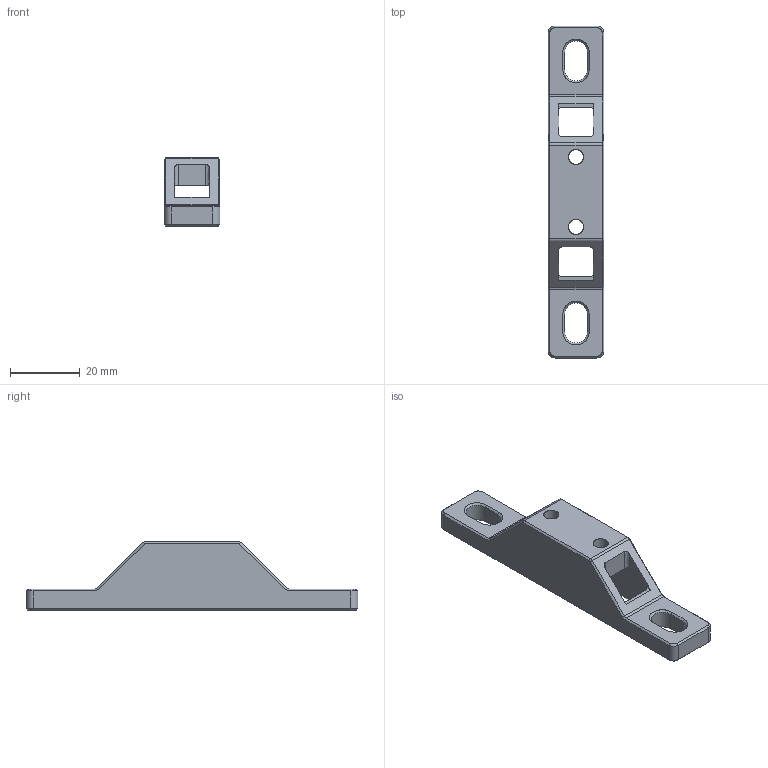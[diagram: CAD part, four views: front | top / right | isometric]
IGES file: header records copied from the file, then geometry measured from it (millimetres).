
Start section: SolidWorks IGES file using analytic representation for surfaces
Global section: file name: C:\Documents and Settings\Administrator\桌面\ZGNUFR／L-03MAB-1.IGS,15; native system: HSolidWorks 2012; preprocessor: SolidWorks 2012; author: Administrator; date: 140703.164015; units: millimetre
Bounding box: 16 x 95 x 19.5 mm (x, y, z)
Surface area: 6783.8 mm2 (no closed solid volume)
Topology: 0 solids, 0 shells, 117 faces, 1394 edges, 1672 vertices
Faces by surface type: revolution 60, bspline 57
